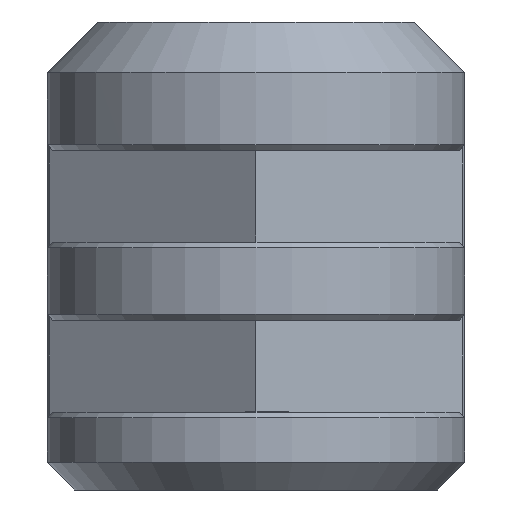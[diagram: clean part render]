
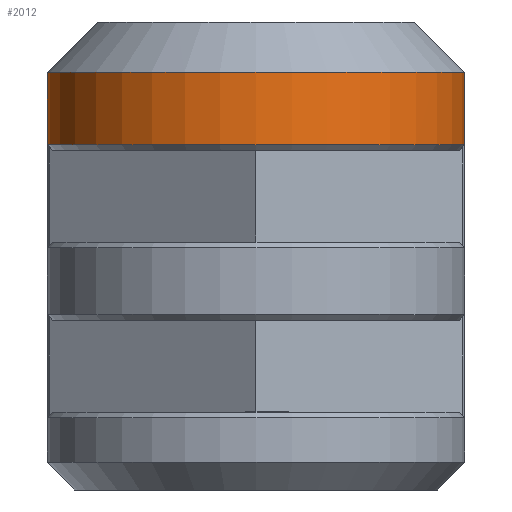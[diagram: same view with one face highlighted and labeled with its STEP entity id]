
A CAD part, left-side view. The second image highlights one B-rep face of the part: STEP entity #2012.
In plain terms, the highlighted cylindrical face has radius 7.5 mm (diameter 15 mm), a partial arc.
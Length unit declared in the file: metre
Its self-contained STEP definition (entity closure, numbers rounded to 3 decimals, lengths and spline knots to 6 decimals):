
#30=ELLIPSE('',#2158,0.010607,0.0075);
#31=ELLIPSE('',#2160,0.010607,0.0075);
#47=CIRCLE('',#2157,0.0075);
#48=CIRCLE('',#2159,0.0075);
#67=CYLINDRICAL_SURFACE('',#2156,0.0075);
#174=ORIENTED_EDGE('',*,*,#653,.T.);
#175=ORIENTED_EDGE('',*,*,#744,.T.);
#176=ORIENTED_EDGE('',*,*,#693,.F.);
#177=ORIENTED_EDGE('',*,*,#745,.T.);
#178=ORIENTED_EDGE('',*,*,#746,.T.);
#179=ORIENTED_EDGE('',*,*,#747,.T.);
#653=EDGE_CURVE('',#942,#941,#1122,.T.);
#693=EDGE_CURVE('',#981,#982,#1162,.T.);
#744=EDGE_CURVE('',#941,#982,#47,.F.);
#745=EDGE_CURVE('',#981,#1014,#30,.F.);
#746=EDGE_CURVE('',#1014,#1013,#48,.F.);
#747=EDGE_CURVE('',#1013,#942,#31,.F.);
#941=VERTEX_POINT('',#2845);
#942=VERTEX_POINT('',#2847);
#981=VERTEX_POINT('',#2926);
#982=VERTEX_POINT('',#2928);
#1013=VERTEX_POINT('',#3002);
#1014=VERTEX_POINT('',#3004);
#1122=LINE('',#2846,#1377);
#1162=LINE('',#2927,#1417);
#1377=VECTOR('',#2288,1.);
#1417=VECTOR('',#2330,1.);
#1648=EDGE_LOOP('',(#174,#175,#176,#177,#178,#179));
#1787=FACE_BOUND('',#1648,.T.);
#2012=ADVANCED_FACE('',(#1787),#67,.T.);
#2156=AXIS2_PLACEMENT_3D('',#3030,#2412,#2413);
#2157=AXIS2_PLACEMENT_3D('',#3031,#2414,#2415);
#2158=AXIS2_PLACEMENT_3D('',#3032,#2416,#2417);
#2159=AXIS2_PLACEMENT_3D('',#3033,#2418,#2419);
#2160=AXIS2_PLACEMENT_3D('',#3034,#2420,#2421);
#2288=DIRECTION('',(0.,0.,-1.));
#2330=DIRECTION('',(0.,0.,-1.));
#2412=DIRECTION('',(0.,0.,-1.));
#2413=DIRECTION('',(-1.,0.,0.));
#2414=DIRECTION('',(0.,0.,-1.));
#2415=DIRECTION('',(-1.,0.,0.));
#2416=DIRECTION('',(0.,0.707,-0.707));
#2417=DIRECTION('',(0.,-0.707,-0.707));
#2418=DIRECTION('',(0.,0.,1.));
#2419=DIRECTION('',(1.,0.,0.));
#2420=DIRECTION('',(0.,-0.707,-0.707));
#2421=DIRECTION('',(0.,0.707,-0.707));
#2845=CARTESIAN_POINT('',(-0.105,0.0075,0.0124));
#2846=CARTESIAN_POINT('',(-0.105,0.0075,0.015));
#2847=CARTESIAN_POINT('',(-0.105,0.0075,0.014));
#2926=CARTESIAN_POINT('',(-0.105,-0.0075,0.014));
#2927=CARTESIAN_POINT('',(-0.105,-0.0075,0.015));
#2928=CARTESIAN_POINT('',(-0.105,-0.0075,0.0124));
#3002=CARTESIAN_POINT('',(-0.101258,0.0065,0.015));
#3004=CARTESIAN_POINT('',(-0.101258,-0.0065,0.015));
#3030=CARTESIAN_POINT('',(-0.105,0.,0.015));
#3031=CARTESIAN_POINT('',(-0.105,0.,0.0124));
#3032=CARTESIAN_POINT('',(-0.105,0.,0.0215));
#3033=CARTESIAN_POINT('',(-0.105,0.,0.015));
#3034=CARTESIAN_POINT('',(-0.105,0.,0.0215));
